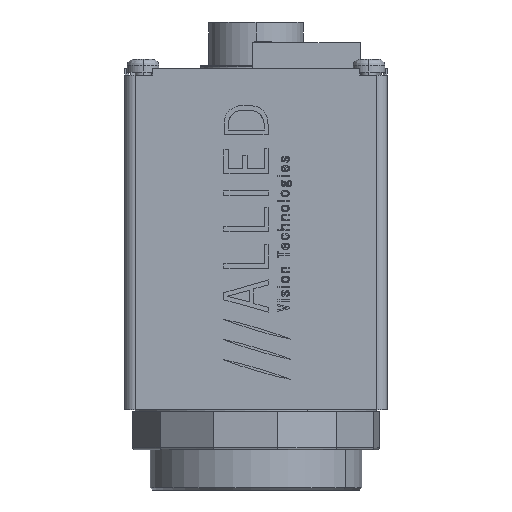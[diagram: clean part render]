
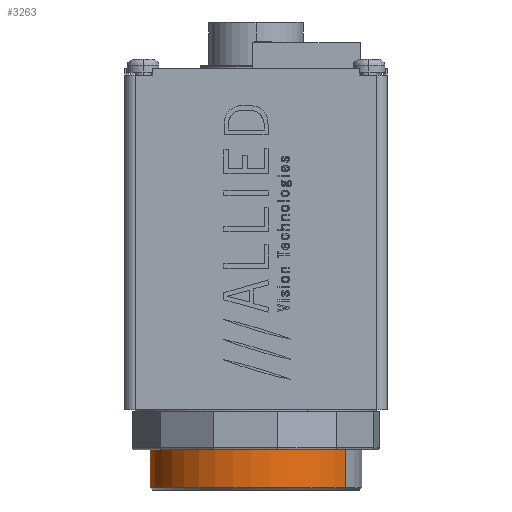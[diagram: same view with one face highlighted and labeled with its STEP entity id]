
A CAD part, left-side view. The second image highlights one B-rep face of the part: STEP entity #3263.
In plain terms, the highlighted cylindrical face has radius 13.335 mm (diameter 26.67 mm), a partial arc.
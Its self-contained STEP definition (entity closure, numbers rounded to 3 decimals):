
#1761 = DIRECTION ( 'NONE',  ( 0., 0., 1. ) ) ;
#2367 = CARTESIAN_POINT ( 'NONE',  ( -13.335, 0., 7.214 ) ) ;
#3263 = ADVANCED_FACE ( 'NONE', ( #97666 ), #119268, .T. ) ;
#4771 = LINE ( 'NONE', #2367, #148158 ) ;
#10186 = CARTESIAN_POINT ( 'NONE',  ( 0., 0., 7.214 ) ) ;
#12136 = EDGE_CURVE ( 'NONE', #34865, #23036, #4771, .T. ) ;
#13924 = ORIENTED_EDGE ( 'NONE', *, *, #139507, .F. ) ;
#15358 = DIRECTION ( 'NONE',  ( 1., 0., 0. ) ) ;
#20853 = CARTESIAN_POINT ( 'NONE',  ( 0., 0., 7.214 ) ) ;
#21770 = DIRECTION ( 'NONE',  ( 0., 0., -1. ) ) ;
#23036 = VERTEX_POINT ( 'NONE', #32663 ) ;
#24501 = DIRECTION ( 'NONE',  ( 1., 0., 0. ) ) ;
#30849 = VECTOR ( 'NONE', #36095, 1000. ) ;
#32663 = CARTESIAN_POINT ( 'NONE',  ( -13.335, 0., 13.386 ) ) ;
#34865 = VERTEX_POINT ( 'NONE', #73318 ) ;
#34895 = CARTESIAN_POINT ( 'NONE',  ( 13.335, 0., 13.386 ) ) ;
#36095 = DIRECTION ( 'NONE',  ( 0., 0., 1. ) ) ;
#41449 = CIRCLE ( 'NONE', #61130, 13.335 ) ;
#43799 = DIRECTION ( 'NONE',  ( 0., 0., 1. ) ) ;
#57602 = VERTEX_POINT ( 'NONE', #72979 ) ;
#61130 = AXIS2_PLACEMENT_3D ( 'NONE', #10186, #107766, #24501 ) ;
#68134 = LINE ( 'NONE', #132770, #30849 ) ;
#72979 = CARTESIAN_POINT ( 'NONE',  ( 13.335, 0., 7.214 ) ) ;
#73318 = CARTESIAN_POINT ( 'NONE',  ( -13.335, 0., 7.214 ) ) ;
#83577 = AXIS2_PLACEMENT_3D ( 'NONE', #105131, #21770, #118878 ) ;
#91771 = AXIS2_PLACEMENT_3D ( 'NONE', #20853, #43799, #15358 ) ;
#93464 = EDGE_CURVE ( 'NONE', #57602, #34865, #41449, .T. ) ;
#97666 = FACE_OUTER_BOUND ( 'NONE', #141397, .T. ) ;
#105131 = CARTESIAN_POINT ( 'NONE',  ( 0., 0., 13.386 ) ) ;
#107766 = DIRECTION ( 'NONE',  ( 0., 0., 1. ) ) ;
#118878 = DIRECTION ( 'NONE',  ( 1., 0., 0. ) ) ;
#119268 = CYLINDRICAL_SURFACE ( 'NONE', #91771, 13.335 ) ;
#123193 = EDGE_CURVE ( 'NONE', #23036, #158372, #148237, .T. ) ;
#132770 = CARTESIAN_POINT ( 'NONE',  ( 13.335, 0., 7.214 ) ) ;
#139507 = EDGE_CURVE ( 'NONE', #57602, #158372, #68134, .T. ) ;
#141397 = EDGE_LOOP ( 'NONE', ( #151626, #162209, #170774, #13924 ) ) ;
#148158 = VECTOR ( 'NONE', #1761, 1000. ) ;
#148237 = CIRCLE ( 'NONE', #83577, 13.335 ) ;
#151626 = ORIENTED_EDGE ( 'NONE', *, *, #93464, .T. ) ;
#158372 = VERTEX_POINT ( 'NONE', #34895 ) ;
#162209 = ORIENTED_EDGE ( 'NONE', *, *, #12136, .T. ) ;
#170774 = ORIENTED_EDGE ( 'NONE', *, *, #123193, .T. ) ;
